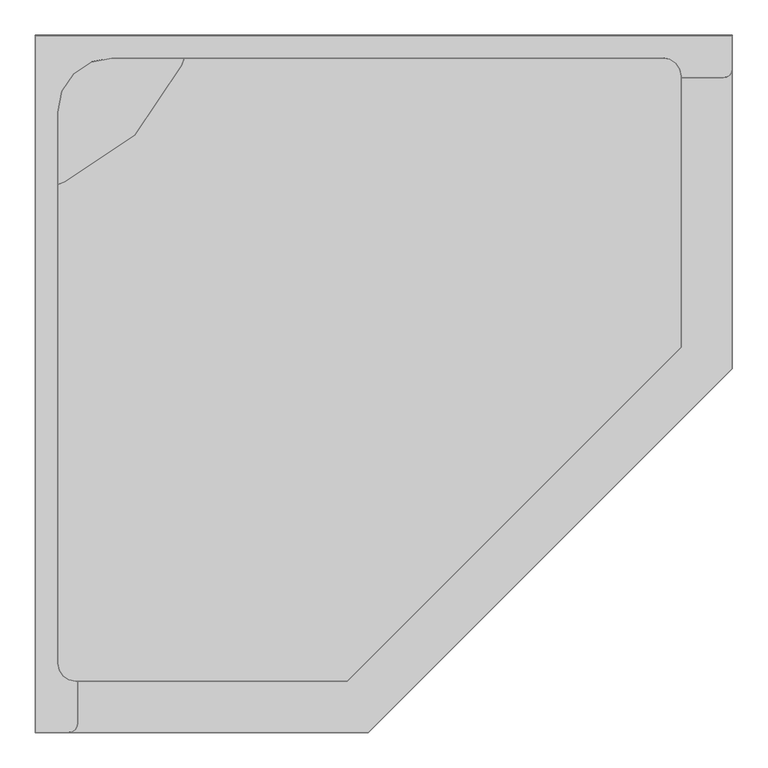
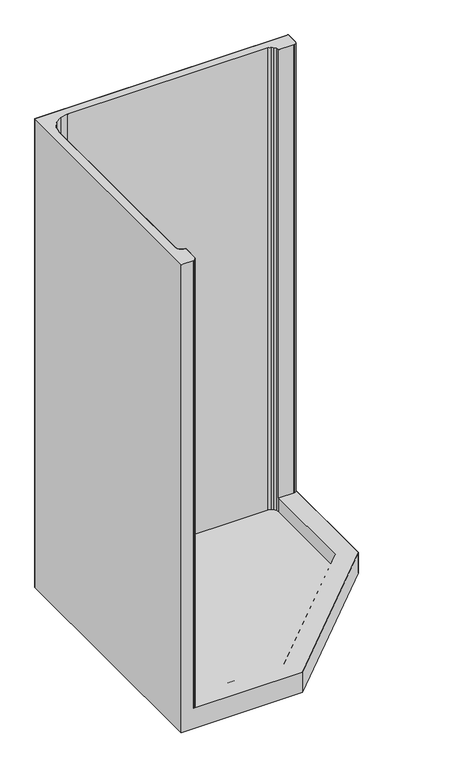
"""IFC4 building model written with IfcOpenShell, lengths in millimetres: flow terminal geometry, Kohler_-_K-1517_Cap_Cod_40_inch_Neo-angle_Shower_1286 : Kohler_-_K-1517_Cap_Cod_40_inch_Neo-angle_Shower_1286."""

from ifc_helpers import new_model, si_unit, origin, place, context, project, spatial, triangles, source, transform, mapped, element, save


def flow_terminal_bc4e76e0(model_context):
    return source(origin(), model_context, "Body", "Tessellation", [
        triangles([(210.4022736, -31.7499992, 25.4000008), (210.4022736, -31.7499992, 1257.3), (206.5309074, -41.5743155, 1257.3), (206.5309074, -41.5743155, 25.4000008), (140.4585686, -140.4585959, 25.4000008), (140.4585686, -140.4585959, 1257.3), (41.5743155, -206.5309074, 1257.3), (41.5743155, -206.5309074, 25.4000008), (31.7499992, -210.4022736, 1257.3), (31.7499992, -210.4022736, 25.4000008), (107.949997, -31.7499992, 1257.3), (78.7895767, -37.5504196, 1257.3), (54.0684975, -54.0684975, 1257.3), (37.5504196, -78.7895767, 1257.3), (31.7499992, -107.949997, 1257.3), (886.4599903, -31.7499992, 25.4000008), (896.1801819, -33.6835249, 1921.0019302), (886.4599903, -31.7499992, 1921.0019302), (896.1801819, -33.6835249, 25.4000008), (904.4205946, -39.189482, 25.4000008), (904.4205946, -39.189482, 1921.0019302), (909.9265812, -47.4298538, 1921.0019302), (909.9265812, -47.4298538, 25.4000008), (911.8600388, -57.15, 25.4000008), (911.8600388, -57.15, 1921.0019302), (31.7499992, -107.949997, 1921.0019302), (37.5504196, -78.7895767, 1921.0019302), (54.0684975, -54.0684975, 1921.0019302), (78.7895767, -37.5504196, 1921.0019302), (107.949997, -31.7499992, 1921.0019302), (57.15, -911.8600388, 25.4000008), (47.4298538, -909.9265812, 1921.0019302), (57.15, -911.8600388, 1921.0019302), (47.4298538, -909.9265812, 25.4000008), (39.1895592, -904.4205219, 25.4000008), (39.1895592, -904.4205219, 1921.0019302), (33.6834977, -896.1801819, 1921.0019302), (33.6834977, -896.1801819, 25.4000008), (31.7499992, -886.4599903, 1921.0019302), (31.7499992, -886.4599903, 25.4000008), (59.6900521, -971.55, 82.550003), (59.6900521, -971.55, 1921.0019302), (58.7232506, -976.4101685, 1921.0019302), (58.7232506, -976.4101685, 82.550003), (55.9703209, -980.5302658, 82.550003), (55.9703209, -980.5302658, 1921.0019302), (51.8501373, -983.2832954, 1921.0019302), (51.8501373, -983.2832954, 82.550003), (46.9900506, -984.2500242, 1921.0019302), (46.9900506, -984.2500242, 82.550003), (984.2500242, -46.9900778, 82.550003), (984.2500242, -46.9900778, 1921.0019302), (983.2832954, -51.8501373, 1921.0019302), (983.2832954, -51.8501373, 82.550003), (980.5302658, -55.9702482, 82.550003), (980.5302658, -55.9702482, 1921.0019302), (976.4101685, -58.7232506, 1921.0019302), (976.4101685, -58.7232506, 82.550003), (971.55, -59.6900748, 1921.0019302), (971.55, -59.6900748, 82.550003), (911.8600388, -59.6900748, 82.550003), (911.8600388, -59.6900748, 1921.0019302), (59.6900521, -911.8600388, 82.550003), (59.6900521, -911.8600388, 1921.0019302), (984.2500242, 0.0, 1921.0019302), (0.0, -984.2500242, 1921.0019302), (0.0, 0.0, 1921.0019302), (911.8600388, -440.1691355, 25.4000008), (911.8600388, -440.1691355, 82.550003), (440.1691355, -911.8600388, 25.4000008), (440.1691355, -911.8600388, 82.550003), (984.2500242, -470.1540058, 82.550003), (984.2500242, -470.1540058, 0.0), (984.2500242, 0.0, 0.0), (470.1540058, -984.2500242, 82.550003), (470.1540058, -984.2500242, 0.0), (0.0, -984.2500242, 0.0), (0.0, 0.0, 0.0)], [[3, 1, 2], [1, 3, 4], [3, 5, 4], [3, 6, 5], [5, 7, 8], [6, 7, 5], [10, 7, 9], [7, 10, 8], [11, 3, 2], [13, 11, 12], [15, 13, 14], [7, 15, 9], [3, 7, 6], [13, 3, 11], [7, 13, 15], [13, 7, 3], [18, 16, 17], [19, 17, 16], [19, 20, 17], [20, 21, 17], [23, 22, 20], [20, 22, 21], [25, 22, 24], [23, 24, 22], [27, 26, 14], [15, 14, 26], [27, 14, 28], [14, 13, 28], [13, 12, 28], [28, 12, 29], [11, 30, 12], [29, 12, 30], [33, 31, 32], [34, 32, 31], [34, 35, 32], [35, 36, 32], [38, 37, 35], [35, 37, 36], [40, 39, 38], [37, 38, 39], [43, 41, 42], [41, 43, 44], [43, 45, 44], [43, 46, 45], [45, 47, 48], [46, 47, 45], [50, 47, 49], [47, 50, 48], [53, 51, 52], [51, 53, 54], [53, 55, 54], [53, 56, 55], [55, 57, 58], [56, 57, 55], [58, 59, 60], [59, 58, 57], [59, 61, 60], [61, 59, 62], [64, 41, 63], [42, 41, 64], [26, 39, 15], [10, 9, 40], [40, 9, 39], [15, 39, 9], [1, 16, 2], [11, 2, 30], [18, 30, 16], [2, 16, 30], [43, 47, 46], [64, 43, 42], [59, 25, 62], [59, 22, 25], [59, 21, 22], [59, 17, 21], [57, 17, 59], [56, 17, 57], [53, 17, 56], [52, 17, 53], [52, 18, 17], [65, 18, 52], [65, 30, 18], [47, 66, 49], [43, 66, 47], [64, 66, 43], [67, 30, 65], [67, 29, 30], [67, 28, 29], [67, 27, 28], [67, 26, 27], [67, 39, 26], [66, 39, 67], [33, 66, 64], [66, 37, 39], [66, 36, 37], [32, 66, 33], [36, 66, 32], [25, 24, 62], [69, 61, 68], [68, 61, 24], [62, 24, 61], [68, 70, 69], [71, 69, 70], [71, 70, 63], [64, 63, 33], [70, 31, 63], [33, 63, 31], [73, 51, 72], [74, 51, 73], [52, 74, 65], [51, 74, 52], [76, 72, 75], [76, 73, 72], [66, 50, 49], [77, 50, 66], [76, 50, 77], [50, 76, 75], [54, 72, 51], [55, 72, 54], [58, 72, 55], [69, 60, 61], [41, 71, 63], [44, 71, 41], [45, 71, 44], [75, 48, 50], [60, 72, 58], [69, 72, 60], [71, 72, 69], [48, 71, 45], [71, 75, 72], [48, 75, 71], [67, 77, 66], [78, 77, 67], [74, 67, 65], [74, 78, 67], [31, 35, 34], [68, 31, 70], [23, 68, 24], [19, 23, 20], [1, 19, 16], [40, 8, 10], [40, 5, 8], [38, 5, 40], [31, 38, 35], [23, 31, 68], [1, 23, 19], [38, 4, 5], [31, 4, 38], [1, 31, 23], [4, 31, 1]], closed=False),
    ])


if __name__ == "__main__":
    model = new_model("IFC4")
    model_context = context("Model", 3, world=origin())
    ifc_project = project(units=[si_unit("LENGTHUNIT", "METRE", prefix="MILLI")], contexts=[model_context])
    site = spatial("IfcSite", under=ifc_project)
    building = spatial("IfcBuilding", under=site)
    placement = place(None, origin())
    flow_terminal_shape = flow_terminal_bc4e76e0(model_context)
    element("IfcFlowTerminal", 1, ObjectType="Kohler_-_K-1517_Cap_Cod_40_inch_Neo-angle_Shower_1286 : Kohler_-_K-1517_Cap_Cod_40_inch_Neo-angle_Shower_1286", at=placement, inside=building, context=model_context, shape_type="MappedRepresentation", body=[
        mapped(flow_terminal_shape, transform((0.0, 0.0, 0.0), x_axis=(1.0, 0.0, 0.0), y_axis=(0.0, 1.0, 0.0), z_axis=(0.0, 0.0, 1.0))),
    ])
    save(model, "model.ifc")
